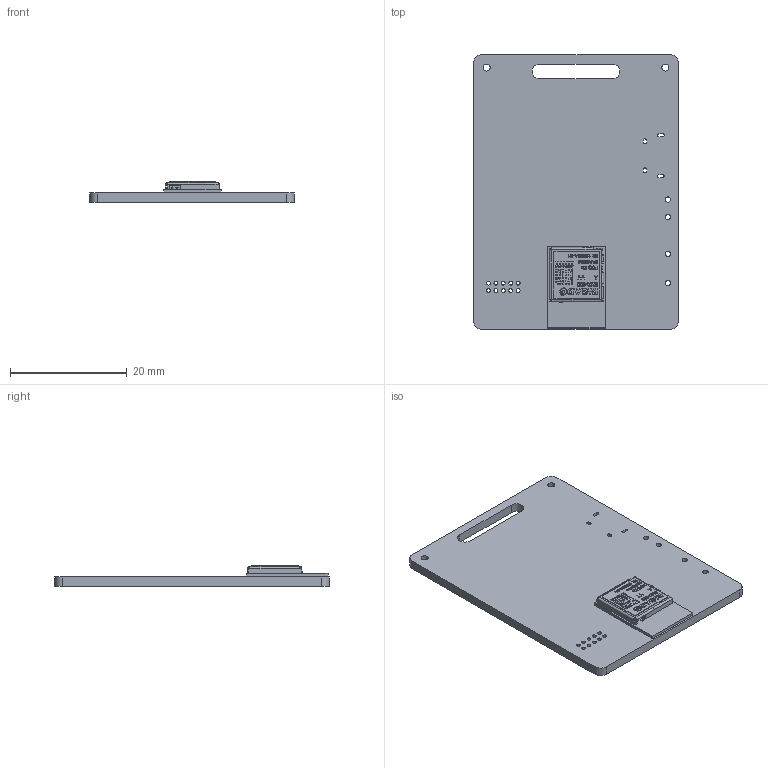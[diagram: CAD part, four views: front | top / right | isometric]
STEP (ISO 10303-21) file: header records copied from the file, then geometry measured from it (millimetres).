
FILE_DESCRIPTION(('KiCad electronic assembly'),'2;1');
FILE_NAME('rythm_badge_tudelft.step','2022-02-24T11:52:15',('Pcbnew'),( 'Kicad'),'Open CASCADE STEP processor 7.5','KiCad to STEP converter' ,'Unknown');
FILE_SCHEMA(('AUTOMOTIVE_DESIGN { 1 0 10303 214 1 1 1 1 }'));
Length unit declared in the file: millimetre
Products named in the file (4): rythm_badge_tudelft 1; BMD-300; COMPOUND; rythm_badge_tudelft PCB
Assembly tree (3 placements, depth 3):
  rythm_badge_tudelft 1
    BMD-300
      COMPOUND
    rythm_badge_tudelft PCB
Bounding box: 35 x 47 x 3.54 mm (x, y, z)
Volume: 2689.4 mm3; surface area: 4361.6 mm2
Topology: 21 solids, 21 shells, 1700 faces, 4451 edges, 2956 vertices
Faces by surface type: bspline 1654, cylinder 30, plane 16
Full cylindrical faces by diameter (mm): 0.65 x10, 0.9 x4, 1.199 x2
Entity records: 117394 total; most frequent: CARTESIAN_POINT 45689, B_SPLINE_CURVE_WITH_KNOTS 12893, ORIENTED_EDGE 8902, PCURVE 8902, DEFINITIONAL_REPRESENTATION 8902, EDGE_CURVE 4451, SURFACE_CURVE 4435, VERTEX_POINT 2956
